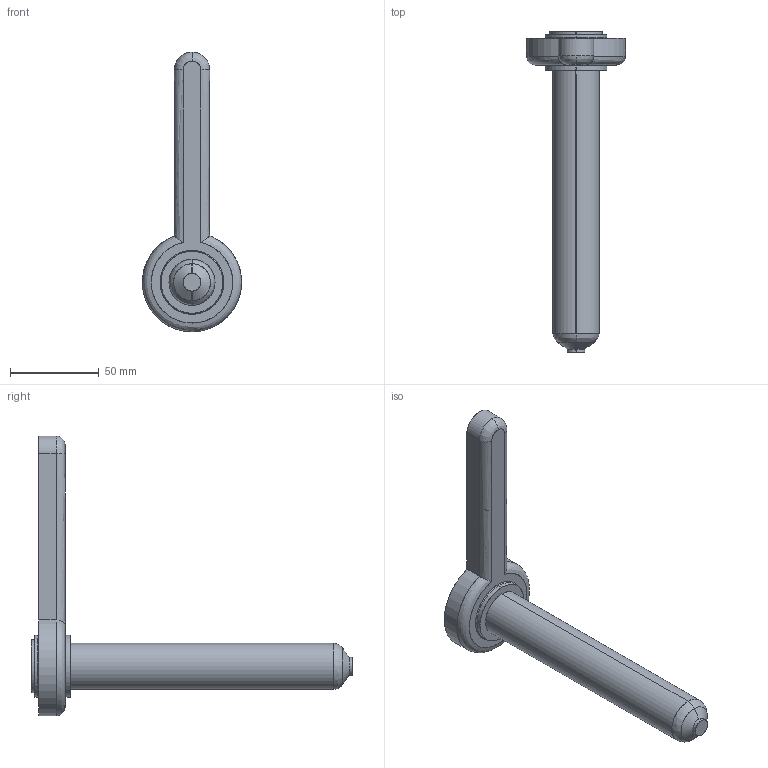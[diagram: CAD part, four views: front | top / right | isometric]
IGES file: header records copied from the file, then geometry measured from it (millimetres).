
Start section: SolidWorks IGES file using analytic representation for surfaces
Global section: file name: C:\Documents and Settings\ws-20\Desktop\TEM\Sede UGEP3154-S-A C-159 L-179 P-0.IGS; native system: SolidWorks 2012; preprocessor: SolidWorks 2012; author: ws-20; date: 120404.085230; units: millimetre
Bounding box: 56 x 181.4 x 158 mm (x, y, z)
Surface area: 26940.9 mm2 (no closed solid volume)
Topology: 0 solids, 0 shells, 34 faces, 754 edges, 754 vertices
Faces by surface type: revolution 21, bspline 13
